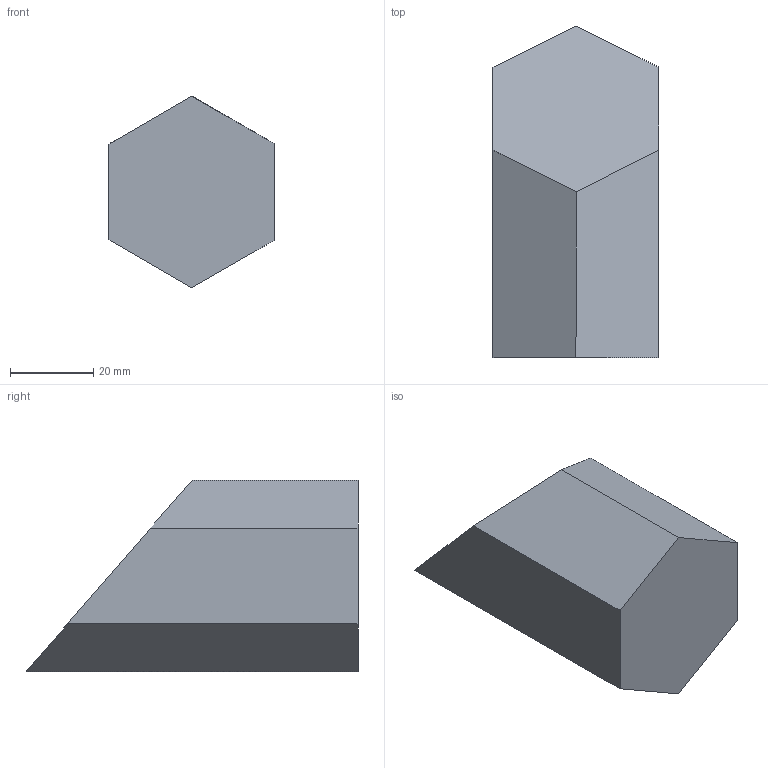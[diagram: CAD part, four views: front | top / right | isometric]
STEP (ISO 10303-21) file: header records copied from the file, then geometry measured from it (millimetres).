
FILE_DESCRIPTION(/* description */ ('','CAx-IF Rec.Pracs.---Representation and Presentation of Product Manufacturing Information (PMI)---4.0---2014-10-13'),/* implementation_level */ '2;1');
FILE_NAME(/* name */ '2.stp',/* time_stamp */ '2026-06-27T16:24:33+01:00',/* author */ ('hunte'),/* organization */ (''),/* preprocessor_version */ 'ST-DEVELOPER v20',/* originating_system */ 'Autodesk Inventor 2024',/* authorisation */ '');
FILE_SCHEMA (('AP242_MANAGED_MODEL_BASED_3D_ENGINEERING_MIM_LF { 1 0 10303 442 1 1 4 }'));
Length unit declared in the file: millimetre
Products named in the file (1): 2
Bounding box: 40 x 80 x 46.19 mm (x, y, z)
Volume: 83138.4 mm3; surface area: 11532.5 mm2
Topology: 1 solids, 1 shells, 8 faces, 18 edges, 12 vertices
Faces by surface type: plane 8
Entity records: 353 total; most frequent: DIRECTION 62, CARTESIAN_POINT 56, ORIENTED_EDGE 36, AXIS2_PLACEMENT_3D 22, LINE 18, VECTOR 18, EDGE_CURVE 18, VERTEX_POINT 12
